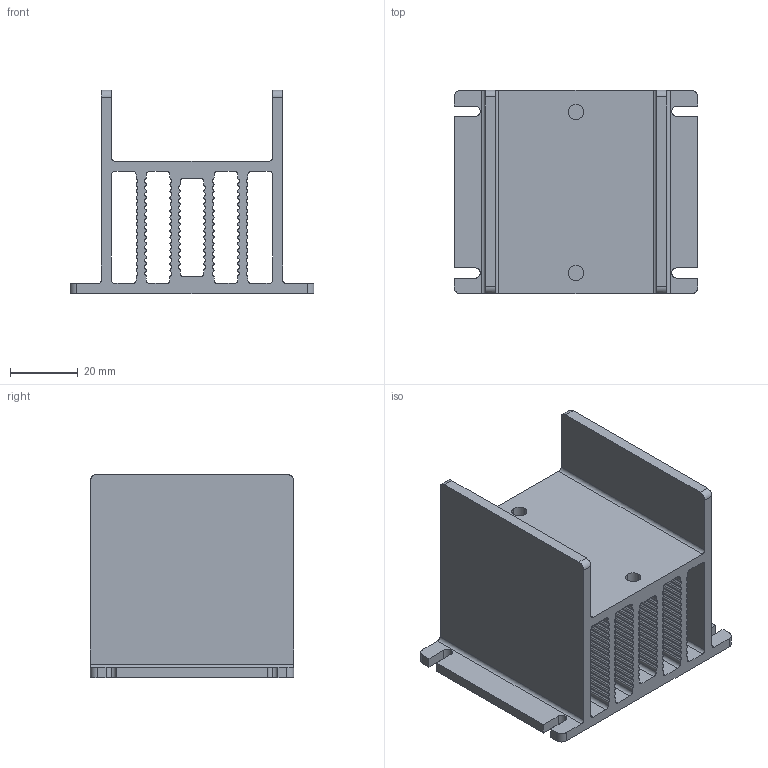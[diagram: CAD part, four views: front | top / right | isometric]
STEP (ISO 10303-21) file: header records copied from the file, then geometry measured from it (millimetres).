
FILE_DESCRIPTION(/* description */ (''),/* implementation_level */ '2;1');
FILE_NAME(/* name */ '小号散热器.stp',/* time_stamp */ '2025-06-18T15:59:00+08:00',/* author */ (''),/* organization */ (''),/* preprocessor_version */ 'ST-DEVELOPER v19.4',/* originating_system */ 'SIEMENS PLM Software NX2306.9141',/* authorisation */ '');
FILE_SCHEMA (('AUTOMOTIVE_DESIGN { 1 0 10303 214 3 1 1 1 }'));
Length unit declared in the file: inch
Products named in the file (1): 小号散热器.step_sldprt_objects
Bounding box: 72 x 60 x 60 mm (x, y, z)
Volume: 63981.4 mm3; surface area: 45901.8 mm2
Topology: 1 solids, 1 shells, 440 faces, 1314 edges, 876 vertices
Faces by surface type: cylinder 386, plane 38, bspline 16
Entity records: 14440 total; most frequent: CARTESIAN_POINT 5735, ORIENTED_EDGE 2628, EDGE_CURVE 1314, DIRECTION 968, VERTEX_POINT 876, EDGE_LOOP 458, ADVANCED_FACE 440, FACE_OUTER_BOUND 434
